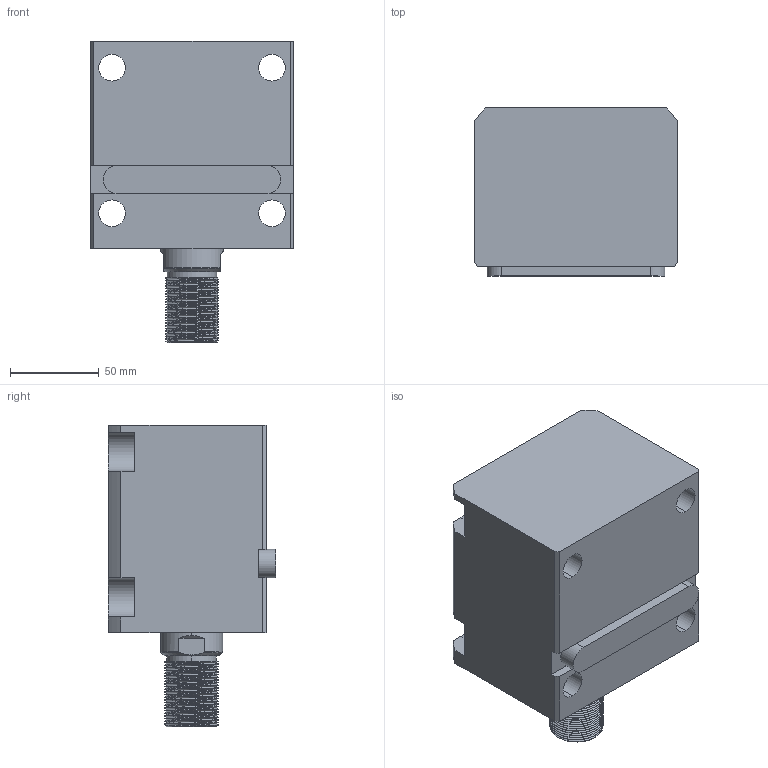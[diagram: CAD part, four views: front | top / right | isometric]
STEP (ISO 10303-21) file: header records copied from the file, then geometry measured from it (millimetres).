
FILE_DESCRIPTION (( 'STEP AP214' ), '1' );
FILE_NAME ('chtb-la63x50w_asm.STEP', '2018-05-17T03:02:09', ( 'Windows' ), ( 'Microsoft' ), 'SwSTEP 2.0', 'SolidWorks 2015', '' );
FILE_SCHEMA (( 'AUTOMOTIVE_DESIGN' ));
Length unit declared in the file: millimetre
Products named in the file (5): CHTB-LA63X50NBT; CHTB-LA63PJ; CHTB63X50WHSG; CHTB-63QG; chtb-la63x50w_asm
Assembly tree (4 placements, depth 2):
  chtb-la63x50w_asm
    CHTB-63QG
    CHTB63X50WHSG
    CHTB-LA63PJ
    CHTB-LA63X50NBT
Bounding box: 114 x 94.5 x 170 mm (x, y, z)
Volume: 1038304.9 mm3; surface area: 157170.2 mm2
Topology: 4 solids, 4 shells, 228 faces, 670 edges, 457 vertices
Faces by surface type: cylinder 147, plane 48, bspline 14, cone 13, torus 6
Entity records: 22769 total; most frequent: CARTESIAN_POINT 17126, ORIENTED_EDGE 1332, DIRECTION 940, EDGE_CURVE 666, VERTEX_POINT 457, AXIS2_PLACEMENT_3D 350, EDGE_LOOP 253, LINE 240
